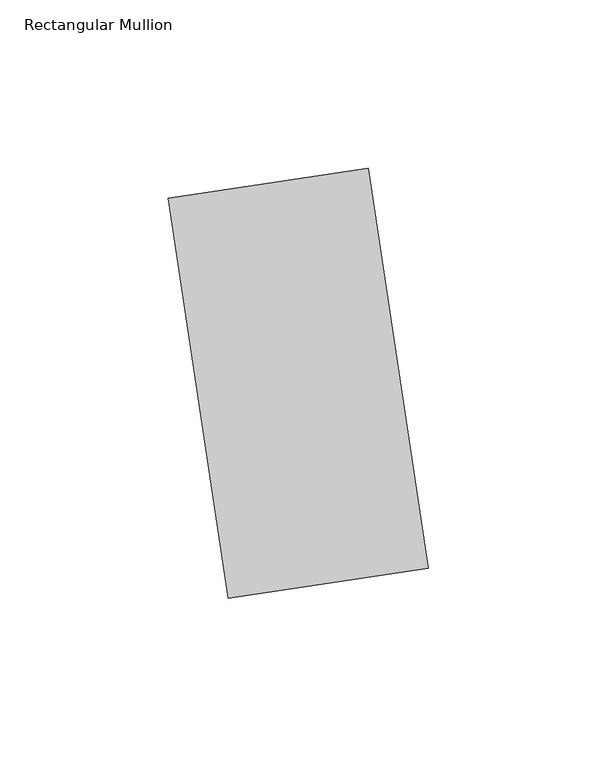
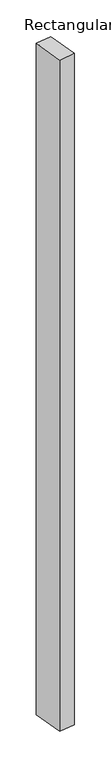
"""IFC4 building model written with IfcOpenShell, lengths in millimetres: member geometry, Rectangular Mullion : TERÇA 6x12 cm."""

from ifc_helpers import new_model, si_unit, frame, origin, place, context, project, spatial, polyline, outline, extrude, source, transform, mapped, element, save


def rectangular_mullion_8ea9f5d9(model_context):
    return source(origin(), model_context, "Body", "SweptSolid", [
        extrude(outline(polyline([(29.6680906, 4.4502136), (-29.6680906, -4.4502136), (-47.4689449, 114.2221488), (11.8672362, 123.1225759), (29.6680906, 4.4502136)])), frame((0.0, 0.0, -2622.82123), z_axis=(0.0, 0.0, 1.0), x_axis=(1.0, 0.0, 0.0)), (0.0, 0.0, 1.0), 2622.82123),
    ])


if __name__ == "__main__":
    model = new_model("IFC4")
    model_context = context("Model", 3, world=origin())
    ifc_project = project(units=[si_unit("LENGTHUNIT", "METRE", prefix="MILLI")], contexts=[model_context])
    site = spatial("IfcSite", under=ifc_project)
    building = spatial("IfcBuilding", under=site)
    placement = place(None, origin())
    rectangular_mullion_shape = rectangular_mullion_8ea9f5d9(model_context)
    element("IfcMember", 1, ObjectType="Rectangular Mullion : TERÇA 6x12 cm", at=placement, inside=building, context=model_context, shape_type="MappedRepresentation", body=[
        mapped(rectangular_mullion_shape, transform((0.0, 0.0, 0.0), x_axis=(1.0, 0.0, 0.0), y_axis=(0.0, 1.0, 0.0), z_axis=(0.0, 0.0, 1.0))),
    ])
    save(model, "model.ifc")
